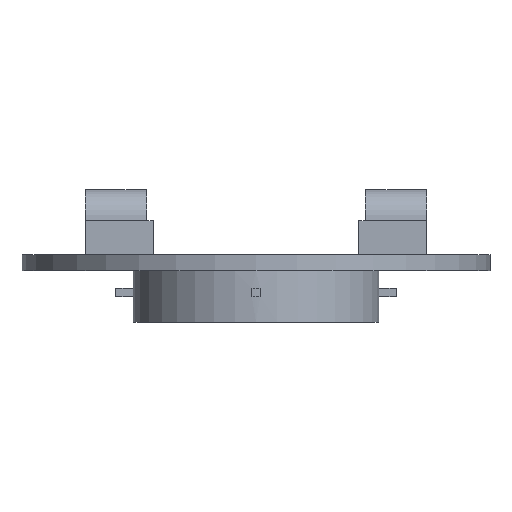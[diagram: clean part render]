
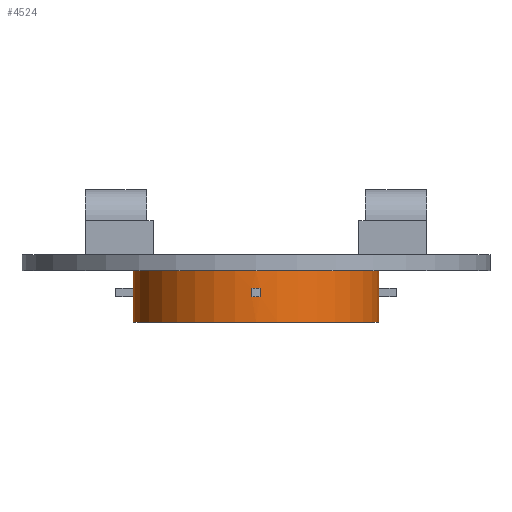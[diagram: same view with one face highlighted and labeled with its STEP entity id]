
A CAD part, front view. The second image highlights one B-rep face of the part: STEP entity #4524.
In plain terms, the highlighted cylindrical face has radius 14.4 mm (diameter 28.8 mm), a full revolution.
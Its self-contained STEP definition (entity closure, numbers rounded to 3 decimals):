
#194=LINE('',#6575,#686);
#198=LINE('',#6583,#690);
#202=LINE('',#6600,#694);
#206=LINE('',#6608,#698);
#210=LINE('',#6625,#702);
#214=LINE('',#6633,#706);
#233=LINE('',#6716,#725);
#234=LINE('',#6720,#726);
#686=VECTOR('',#5211,1000.);
#690=VECTOR('',#5217,1000.);
#694=VECTOR('',#5237,1000.);
#698=VECTOR('',#5243,1000.);
#702=VECTOR('',#5263,1000.);
#706=VECTOR('',#5269,1000.);
#725=VECTOR('',#5352,1000.);
#726=VECTOR('',#5355,1000.);
#1273=ORIENTED_EDGE('',*,*,#2537,.F.);
#1274=ORIENTED_EDGE('',*,*,#2532,.T.);
#1275=ORIENTED_EDGE('',*,*,#2538,.T.);
#1276=ORIENTED_EDGE('',*,*,#2536,.F.);
#1277=ORIENTED_EDGE('',*,*,#2549,.F.);
#1278=ORIENTED_EDGE('',*,*,#2544,.T.);
#1279=ORIENTED_EDGE('',*,*,#2550,.T.);
#1280=ORIENTED_EDGE('',*,*,#2548,.F.);
#1281=ORIENTED_EDGE('',*,*,#2561,.F.);
#1282=ORIENTED_EDGE('',*,*,#2556,.T.);
#1283=ORIENTED_EDGE('',*,*,#2562,.T.);
#1284=ORIENTED_EDGE('',*,*,#2560,.F.);
#1285=ORIENTED_EDGE('',*,*,#2597,.F.);
#1286=ORIENTED_EDGE('',*,*,#2598,.T.);
#1287=ORIENTED_EDGE('',*,*,#2599,.T.);
#1288=ORIENTED_EDGE('',*,*,#2600,.F.);
#1289=ORIENTED_EDGE('',*,*,#2601,.T.);
#1290=ORIENTED_EDGE('',*,*,#2602,.F.);
#2532=EDGE_CURVE('',#3208,#3207,#194,.T.);
#2536=EDGE_CURVE('',#3210,#3209,#198,.T.);
#2537=EDGE_CURVE('',#3208,#3210,#3657,.F.);
#2538=EDGE_CURVE('',#3207,#3209,#3658,.F.);
#2544=EDGE_CURVE('',#3216,#3215,#202,.T.);
#2548=EDGE_CURVE('',#3218,#3217,#206,.T.);
#2549=EDGE_CURVE('',#3216,#3218,#3661,.F.);
#2550=EDGE_CURVE('',#3215,#3217,#3662,.F.);
#2556=EDGE_CURVE('',#3224,#3223,#210,.T.);
#2560=EDGE_CURVE('',#3226,#3225,#214,.T.);
#2561=EDGE_CURVE('',#3224,#3226,#3665,.F.);
#2562=EDGE_CURVE('',#3223,#3225,#3666,.F.);
#2597=EDGE_CURVE('',#3257,#3258,#3683,.F.);
#2598=EDGE_CURVE('',#3257,#3259,#233,.T.);
#2599=EDGE_CURVE('',#3259,#3260,#3684,.F.);
#2600=EDGE_CURVE('',#3258,#3260,#234,.T.);
#2601=EDGE_CURVE('',#3261,#3261,#3685,.T.);
#2602=EDGE_CURVE('',#3262,#3262,#3686,.T.);
#3207=VERTEX_POINT('',#6574);
#3208=VERTEX_POINT('',#6576);
#3209=VERTEX_POINT('',#6580);
#3210=VERTEX_POINT('',#6582);
#3215=VERTEX_POINT('',#6599);
#3216=VERTEX_POINT('',#6601);
#3217=VERTEX_POINT('',#6605);
#3218=VERTEX_POINT('',#6607);
#3223=VERTEX_POINT('',#6624);
#3224=VERTEX_POINT('',#6626);
#3225=VERTEX_POINT('',#6630);
#3226=VERTEX_POINT('',#6632);
#3257=VERTEX_POINT('',#6714);
#3258=VERTEX_POINT('',#6715);
#3259=VERTEX_POINT('',#6717);
#3260=VERTEX_POINT('',#6719);
#3261=VERTEX_POINT('',#6722);
#3262=VERTEX_POINT('',#6724);
#3657=CIRCLE('',#4769,14.4);
#3658=CIRCLE('',#4771,14.4);
#3661=CIRCLE('',#4778,14.4);
#3662=CIRCLE('',#4780,14.4);
#3665=CIRCLE('',#4787,14.4);
#3666=CIRCLE('',#4789,14.4);
#3683=CIRCLE('',#4817,14.4);
#3684=CIRCLE('',#4818,14.4);
#3685=CIRCLE('',#4819,14.4);
#3686=CIRCLE('',#4820,14.4);
#3867=EDGE_LOOP('',(#1273,#1274,#1275,#1276));
#3868=EDGE_LOOP('',(#1277,#1278,#1279,#1280));
#3869=EDGE_LOOP('',(#1281,#1282,#1283,#1284));
#3870=EDGE_LOOP('',(#1285,#1286,#1287,#1288));
#3871=EDGE_LOOP('',(#1289));
#3872=EDGE_LOOP('',(#1290));
#4157=FACE_BOUND('',#3867,.T.);
#4158=FACE_BOUND('',#3868,.T.);
#4159=FACE_BOUND('',#3869,.T.);
#4160=FACE_BOUND('',#3870,.T.);
#4161=FACE_BOUND('',#3871,.T.);
#4162=FACE_BOUND('',#3872,.T.);
#4428=CYLINDRICAL_SURFACE('',#4816,14.4);
#4524=ADVANCED_FACE('',(#4157,#4158,#4159,#4160,#4161,#4162),#4428,.T.);
#4769=AXIS2_PLACEMENT_3D('',#6585,#5220,#5221);
#4771=AXIS2_PLACEMENT_3D('',#6587,#5224,#5225);
#4778=AXIS2_PLACEMENT_3D('',#6610,#5246,#5247);
#4780=AXIS2_PLACEMENT_3D('',#6612,#5250,#5251);
#4787=AXIS2_PLACEMENT_3D('',#6635,#5272,#5273);
#4789=AXIS2_PLACEMENT_3D('',#6637,#5276,#5277);
#4816=AXIS2_PLACEMENT_3D('',#6712,#5348,#5349);
#4817=AXIS2_PLACEMENT_3D('',#6713,#5350,#5351);
#4818=AXIS2_PLACEMENT_3D('',#6718,#5353,#5354);
#4819=AXIS2_PLACEMENT_3D('',#6721,#5356,#5357);
#4820=AXIS2_PLACEMENT_3D('',#6723,#5358,#5359);
#5211=DIRECTION('',(0.,0.,1.));
#5217=DIRECTION('',(0.,0.,1.));
#5220=DIRECTION('',(0.,0.,-1.));
#5221=DIRECTION('',(0.,1.,0.));
#5224=DIRECTION('',(0.,0.,-1.));
#5225=DIRECTION('',(0.,1.,0.));
#5237=DIRECTION('',(0.,0.,1.));
#5243=DIRECTION('',(0.,0.,1.));
#5246=DIRECTION('',(0.,0.,-1.));
#5247=DIRECTION('',(1.,0.,0.));
#5250=DIRECTION('',(0.,0.,-1.));
#5251=DIRECTION('',(1.,0.,0.));
#5263=DIRECTION('',(0.,0.,1.));
#5269=DIRECTION('',(0.,0.,1.));
#5272=DIRECTION('',(0.,0.,-1.));
#5273=DIRECTION('',(0.,-1.,0.));
#5276=DIRECTION('',(0.,0.,-1.));
#5277=DIRECTION('',(0.,-1.,0.));
#5348=DIRECTION('',(0.,0.,1.));
#5349=DIRECTION('',(1.,0.,0.));
#5350=DIRECTION('',(0.,0.,-1.));
#5351=DIRECTION('',(-1.,0.,0.));
#5352=DIRECTION('',(0.,0.,1.));
#5353=DIRECTION('',(0.,0.,-1.));
#5354=DIRECTION('',(-1.,0.,0.));
#5355=DIRECTION('',(0.,0.,1.));
#5356=DIRECTION('',(0.,0.,1.));
#5357=DIRECTION('',(1.,0.,0.));
#5358=DIRECTION('',(0.,0.,1.));
#5359=DIRECTION('',(1.,0.,0.));
#6574=CARTESIAN_POINT('',(0.5,14.391,-2.));
#6575=CARTESIAN_POINT('',(0.5,14.391,-3.));
#6576=CARTESIAN_POINT('',(0.5,14.391,-3.));
#6580=CARTESIAN_POINT('',(-0.5,14.391,-2.));
#6582=CARTESIAN_POINT('',(-0.5,14.391,-3.));
#6583=CARTESIAN_POINT('',(-0.5,14.391,-3.));
#6585=CARTESIAN_POINT('',(0.,0.,-3.));
#6587=CARTESIAN_POINT('',(0.,0.,-2.));
#6599=CARTESIAN_POINT('',(14.391,-0.5,-2.));
#6600=CARTESIAN_POINT('',(14.391,-0.5,-3.));
#6601=CARTESIAN_POINT('',(14.391,-0.5,-3.));
#6605=CARTESIAN_POINT('',(14.391,0.5,-2.));
#6607=CARTESIAN_POINT('',(14.391,0.5,-3.));
#6608=CARTESIAN_POINT('',(14.391,0.5,-3.));
#6610=CARTESIAN_POINT('',(0.,0.,-3.));
#6612=CARTESIAN_POINT('',(0.,0.,-2.));
#6624=CARTESIAN_POINT('',(-0.5,-14.391,-2.));
#6625=CARTESIAN_POINT('',(-0.5,-14.391,-3.));
#6626=CARTESIAN_POINT('',(-0.5,-14.391,-3.));
#6630=CARTESIAN_POINT('',(0.5,-14.391,-2.));
#6632=CARTESIAN_POINT('',(0.5,-14.391,-3.));
#6633=CARTESIAN_POINT('',(0.5,-14.391,-3.));
#6635=CARTESIAN_POINT('',(0.,0.,-3.));
#6637=CARTESIAN_POINT('',(0.,0.,-2.));
#6712=CARTESIAN_POINT('',(0.,0.,0.));
#6713=CARTESIAN_POINT('',(0.,0.,-3.));
#6714=CARTESIAN_POINT('',(-14.391,0.5,-3.));
#6715=CARTESIAN_POINT('',(-14.391,-0.5,-3.));
#6716=CARTESIAN_POINT('',(-14.391,0.5,-3.));
#6717=CARTESIAN_POINT('',(-14.391,0.5,-2.));
#6718=CARTESIAN_POINT('',(0.,0.,-2.));
#6719=CARTESIAN_POINT('',(-14.391,-0.5,-2.));
#6720=CARTESIAN_POINT('',(-14.391,-0.5,-3.));
#6721=CARTESIAN_POINT('',(0.,0.,-6.));
#6722=CARTESIAN_POINT('',(14.4,0.,-6.));
#6723=CARTESIAN_POINT('',(0.,0.,0.));
#6724=CARTESIAN_POINT('',(14.4,0.,0.));
